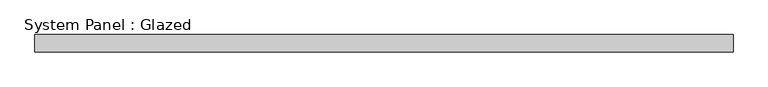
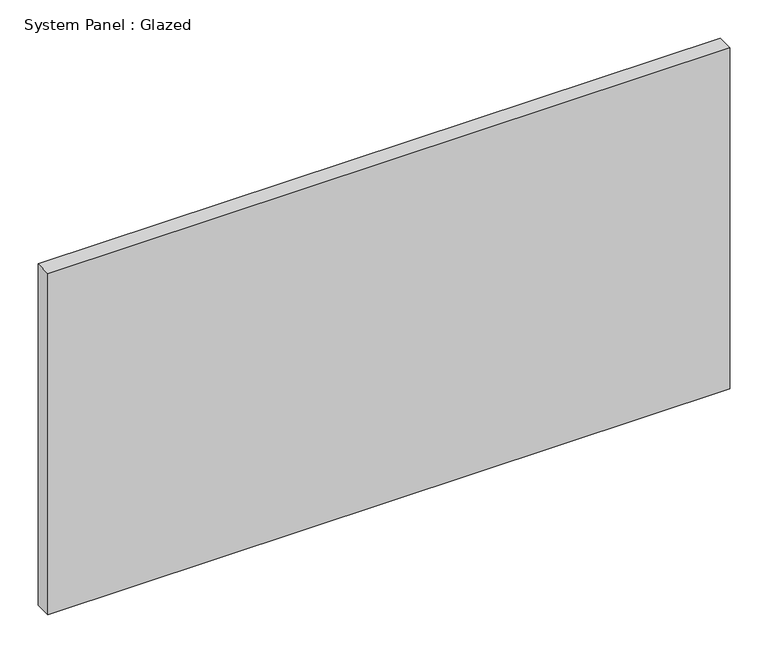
"""IFC4 building model written with IfcOpenShell, lengths in millimetres: plate geometry, System Panel : Glazed."""

from ifc_helpers import new_model, si_unit, origin, origin_with_axes, place, context, project, spatial, polyline, outline, extrude, source, transform, mapped, element, save


def system_panel_glazed_b0dd7fbc(model_context):
    return source(origin(), model_context, "Body", "SweptSolid", [
        extrude(outline(polyline([(516.255, -44.45), (-516.255, -44.45), (-516.255, -19.05), (516.255, -19.05), (516.255, -44.45)])), origin_with_axes(), (0.0, 0.0, 1.0), 546.1),
    ])


if __name__ == "__main__":
    model = new_model("IFC4")
    model_context = context("Model", 3, world=origin())
    ifc_project = project(units=[si_unit("LENGTHUNIT", "METRE", prefix="MILLI")], contexts=[model_context])
    site = spatial("IfcSite", under=ifc_project)
    building = spatial("IfcBuilding", under=site)
    placement = place(None, origin())
    system_panel_glazed_shape = system_panel_glazed_b0dd7fbc(model_context)
    element("IfcPlate", 1, ObjectType="System Panel : Glazed", at=placement, inside=building, context=model_context, shape_type="MappedRepresentation", body=[
        mapped(system_panel_glazed_shape, transform((0.0, 0.0, 0.0), x_axis=(1.0, 0.0, 0.0), y_axis=(0.0, 1.0, 0.0), z_axis=(0.0, 0.0, 1.0))),
    ])
    save(model, "model.ifc")
